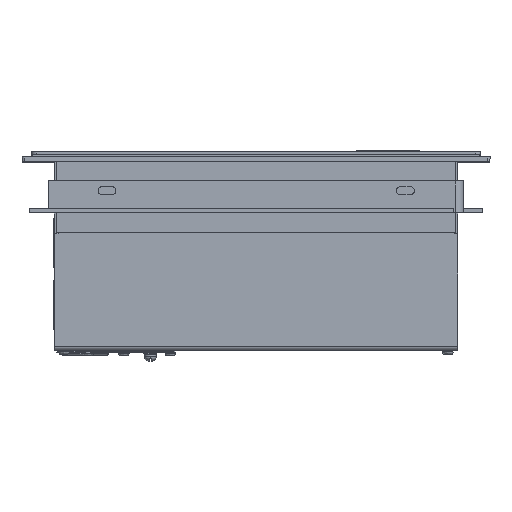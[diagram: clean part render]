
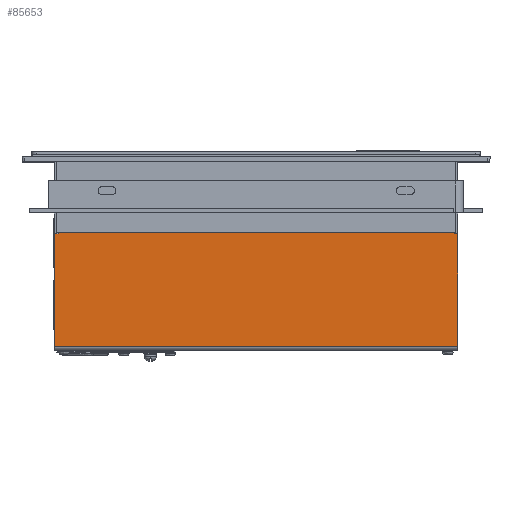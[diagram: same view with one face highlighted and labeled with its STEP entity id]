
A CAD part, top view. The second image highlights one B-rep face of the part: STEP entity #85653.
In plain terms, the highlighted planar face has unit normal (0, 0, 1) as drawn and (0, 1, 0) by its records, which use the part's own axes.
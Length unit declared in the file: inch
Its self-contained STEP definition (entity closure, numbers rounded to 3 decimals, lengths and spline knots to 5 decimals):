
#1328 = ORIENTED_EDGE ( 'NONE', *, *, #140483, .F. ) ;
#1628 = LINE ( 'NONE', #101938, #21613 ) ;
#3429 = ORIENTED_EDGE ( 'NONE', *, *, #11806, .F. ) ;
#3748 = EDGE_CURVE ( 'NONE', #130931, #46030, #20486, .T. ) ;
#6488 = CARTESIAN_POINT ( 'NONE',  ( -5.195, 3.96, -3.0078 ) ) ;
#7130 = EDGE_CURVE ( 'NONE', #108924, #24745, #59046, .T. ) ;
#9796 = LINE ( 'NONE', #116494, #98876 ) ;
#11806 = EDGE_CURVE ( 'NONE', #46030, #126827, #117813, .T. ) ;
#19145 = VECTOR ( 'NONE', #75924, 39.37008 ) ;
#19786 = VERTEX_POINT ( 'NONE', #118726 ) ;
#20486 = LINE ( 'NONE', #63612, #51246 ) ;
#21613 = VECTOR ( 'NONE', #148623, 39.37008 ) ;
#24745 = VERTEX_POINT ( 'NONE', #130493 ) ;
#25013 = ORIENTED_EDGE ( 'NONE', *, *, #136973, .F. ) ;
#28354 = DIRECTION ( 'NONE',  ( 0., -1., 0. ) ) ;
#29068 = LINE ( 'NONE', #63005, #90887 ) ;
#38737 = DIRECTION ( 'NONE',  ( 0., 0., -1. ) ) ;
#46030 = VERTEX_POINT ( 'NONE', #60895 ) ;
#50379 = CARTESIAN_POINT ( 'NONE',  ( 5.195, 3.96, -0.0478 ) ) ;
#51246 = VECTOR ( 'NONE', #121635, 39.37008 ) ;
#51576 = CARTESIAN_POINT ( 'NONE',  ( -5.195, 3.96, -0.0478 ) ) ;
#52045 = VECTOR ( 'NONE', #53027, 39.37008 ) ;
#53027 = DIRECTION ( 'NONE',  ( 0., 0., 1. ) ) ;
#55168 = ORIENTED_EDGE ( 'NONE', *, *, #7130, .F. ) ;
#58746 = VECTOR ( 'NONE', #135989, 39.37008 ) ;
#59046 = LINE ( 'NONE', #135667, #58746 ) ;
#60895 = CARTESIAN_POINT ( 'NONE',  ( 5.195, 3.96, -3.0078 ) ) ;
#62673 = VERTEX_POINT ( 'NONE', #136905 ) ;
#63005 = CARTESIAN_POINT ( 'NONE',  ( 5.195, 3.96, -0.0978 ) ) ;
#63612 = CARTESIAN_POINT ( 'NONE',  ( 5.195, 3.96, -3.0078 ) ) ;
#75924 = DIRECTION ( 'NONE',  ( 0., 0., -1. ) ) ;
#77449 = FACE_OUTER_BOUND ( 'NONE', #95703, .T. ) ;
#79697 = LINE ( 'NONE', #134292, #110706 ) ;
#80974 = CARTESIAN_POINT ( 'NONE',  ( -5.105, 3.96, -3.2878 ) ) ;
#83431 = ORIENTED_EDGE ( 'NONE', *, *, #113818, .F. ) ;
#84073 = ORIENTED_EDGE ( 'NONE', *, *, #86740, .F. ) ;
#85092 = ORIENTED_EDGE ( 'NONE', *, *, #130035, .F. ) ;
#85653 = ADVANCED_FACE ( 'NONE', ( #77449 ), #120853, .F. ) ;
#86475 = DIRECTION ( 'NONE',  ( -1., 0., 0. ) ) ;
#86740 = EDGE_CURVE ( 'NONE', #19786, #130931, #9796, .T. ) ;
#87084 = CARTESIAN_POINT ( 'NONE',  ( 5.195, 3.96, -0.0978 ) ) ;
#90887 = VECTOR ( 'NONE', #86475, 39.37008 ) ;
#95703 = EDGE_LOOP ( 'NONE', ( #25013, #1328, #55168, #85092, #83431, #3429, #106011, #84073 ) ) ;
#97295 = AXIS2_PLACEMENT_3D ( 'NONE', #98004, #28354, #109740 ) ;
#98004 = CARTESIAN_POINT ( 'NONE',  ( 5.195, 3.96, -0.04201 ) ) ;
#98876 = VECTOR ( 'NONE', #128194, 39.37008 ) ;
#101938 = CARTESIAN_POINT ( 'NONE',  ( 5.195, 3.96, -3.2878 ) ) ;
#106011 = ORIENTED_EDGE ( 'NONE', *, *, #3748, .F. ) ;
#108924 = VERTEX_POINT ( 'NONE', #6488 ) ;
#109740 = DIRECTION ( 'NONE',  ( 1., 0., 0. ) ) ;
#110706 = VECTOR ( 'NONE', #38737, 39.37008 ) ;
#113818 = EDGE_CURVE ( 'NONE', #126827, #62673, #29068, .T. ) ;
#116494 = CARTESIAN_POINT ( 'NONE',  ( 5.105, 3.96, -0.04201 ) ) ;
#117813 = LINE ( 'NONE', #50379, #52045 ) ;
#118726 = CARTESIAN_POINT ( 'NONE',  ( 5.105, 3.96, -3.2878 ) ) ;
#120853 = PLANE ( 'NONE',  #97295 ) ;
#121635 = DIRECTION ( 'NONE',  ( 1., 0., 0. ) ) ;
#126827 = VERTEX_POINT ( 'NONE', #87084 ) ;
#128194 = DIRECTION ( 'NONE',  ( 0., 0., 1. ) ) ;
#130035 = EDGE_CURVE ( 'NONE', #62673, #108924, #146324, .T. ) ;
#130493 = CARTESIAN_POINT ( 'NONE',  ( -5.105, 3.96, -3.0078 ) ) ;
#130931 = VERTEX_POINT ( 'NONE', #140805 ) ;
#134292 = CARTESIAN_POINT ( 'NONE',  ( -5.105, 3.96, -0.04201 ) ) ;
#135667 = CARTESIAN_POINT ( 'NONE',  ( 5.195, 3.96, -3.0078 ) ) ;
#135989 = DIRECTION ( 'NONE',  ( 1., 0., 0. ) ) ;
#136905 = CARTESIAN_POINT ( 'NONE',  ( -5.195, 3.96, -0.0978 ) ) ;
#136973 = EDGE_CURVE ( 'NONE', #140033, #19786, #1628, .T. ) ;
#140033 = VERTEX_POINT ( 'NONE', #80974 ) ;
#140483 = EDGE_CURVE ( 'NONE', #24745, #140033, #79697, .T. ) ;
#140805 = CARTESIAN_POINT ( 'NONE',  ( 5.105, 3.96, -3.0078 ) ) ;
#146324 = LINE ( 'NONE', #51576, #19145 ) ;
#148623 = DIRECTION ( 'NONE',  ( 1., 0., 0. ) ) ;
